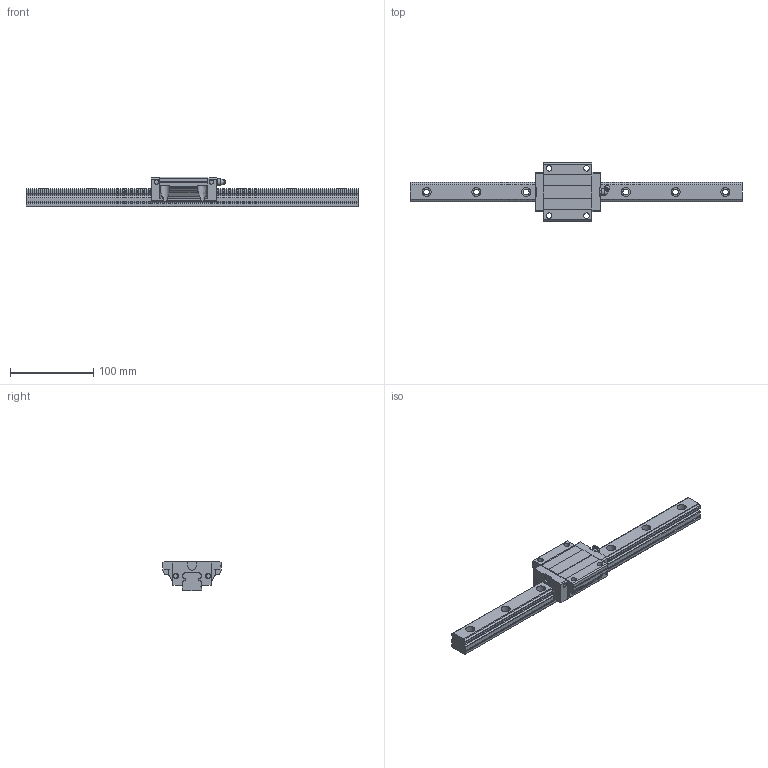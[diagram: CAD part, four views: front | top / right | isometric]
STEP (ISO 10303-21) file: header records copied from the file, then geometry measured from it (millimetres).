
FILE_DESCRIPTION((''),'2;1');
FILE_NAME('D:\製品 (図面)\カタログ用3D\リニアガイド関連\STEP形式\LGHR-F\LGHR25F.stp','2010-06-02T15:53:54',('Tsuchiya'),(''),'Autodesk Inventor 10','Autodesk Inventor 10','');
FILE_SCHEMA(('AUTOMOTIVE_DESIGN { 1 0 10303 214 1 1 1 1 }'));
Length unit declared in the file: millimetre
Products named in the file (3): LGHR25F; LGHR25F1; LGHR25F2
Assembly tree (2 placements, depth 2):
  LGHR25F
    LGHR25F1
    LGHR25F2
Bounding box: 400 x 70 x 36 mm (x, y, z)
Volume: 277498.5 mm3; surface area: 65915.8 mm2
Topology: 2 solids, 2 shells, 248 faces, 670 edges, 443 vertices
Faces by surface type: plane 131, cylinder 65, bspline 47, sphere 3, cone 2
Full cylindrical faces by diameter (mm): 5.2 x2, 5.5 x2, 6.5 x2, 6.647 x2, 7 x1, 7.7 x1
Entity records: 8258 total; most frequent: CARTESIAN_POINT 2113, ORIENTED_EDGE 1248, DIRECTION 1208, EDGE_CURVE 624, VERTEX_POINT 438, VECTOR 412, LINE 412, AXIS2_PLACEMENT_3D 398
